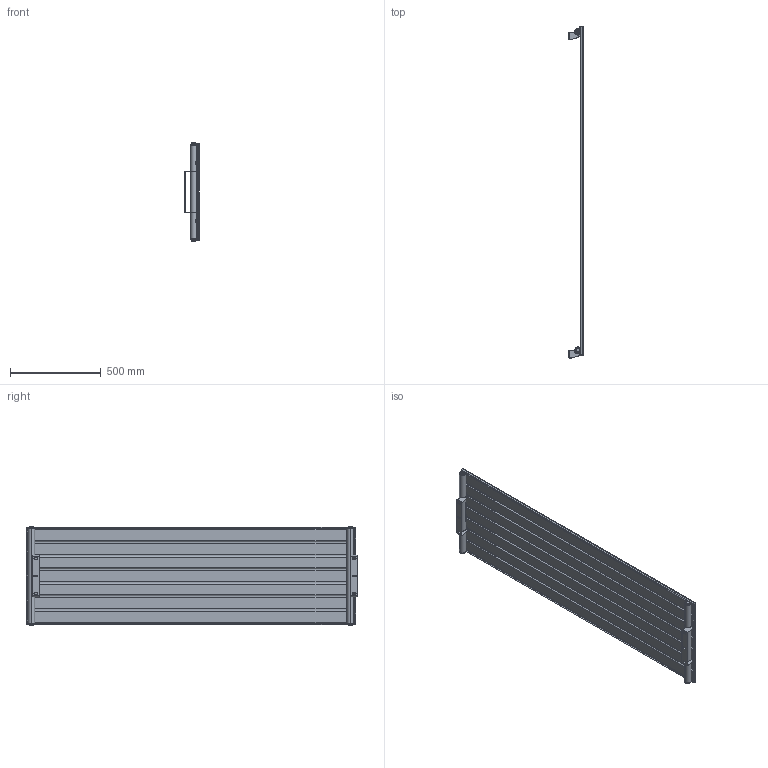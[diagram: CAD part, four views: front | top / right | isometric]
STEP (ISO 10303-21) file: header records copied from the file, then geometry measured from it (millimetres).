
FILE_DESCRIPTION (( 'STEP AP203' ), '1' );
FILE_NAME ('FICE18530SV.STEP', '2026-03-04T08:27:25', ( '' ), ( '' ), 'SwSTEP 2.0', 'SolidWorks 2025', '' );
FILE_SCHEMA (( 'CONFIG_CONTROL_DESIGN' ));
Length unit declared in the file: millimetre
Products named in the file (7): COLLETTORE INT 75 [Con configurazioni]_530; tappo_sfiato.prt; PIASTRA ICE VERTICAL; tappo_sx.prt; TRAVERSINO PIATTO 70 [Con configurazioni]_1810; STAFFA 2025 [Con configurazioni]_PICCHIO S (3 EL); FICE18530SV
Assembly tree (16 placements, depth 2):
  FICE18530SV
    COLLETTORE INT 75 [Con configurazioni]_530  x2
    TRAVERSINO PIATTO 70 [Con configurazioni]_1810  x7
    PIASTRA ICE VERTICAL
    tappo_sx.prt  x2
    tappo_sfiato.prt  x2
    STAFFA 2025 [Con configurazioni]_PICCHIO S (3 EL)  x2
Bounding box: 80.5 x 1833.11 x 542 mm (x, y, z)
Volume: 5122250.1 mm3; surface area: 6142693.1 mm2
Topology: 12 solids, 20 shells, 1116 faces, 2968 edges, 1858 vertices
Faces by surface type: plane 498, cylinder 356, cone 116, bspline 98, torus 48
Entity records: 23586 total; most frequent: CARTESIAN_POINT 13548, ORIENTED_EDGE 2124, DIRECTION 1504, EDGE_CURVE 1066, VERTEX_POINT 661, AXIS2_PLACEMENT_3D 556, B_SPLINE_CURVE_WITH_KNOTS 475, EDGE_LOOP 434
